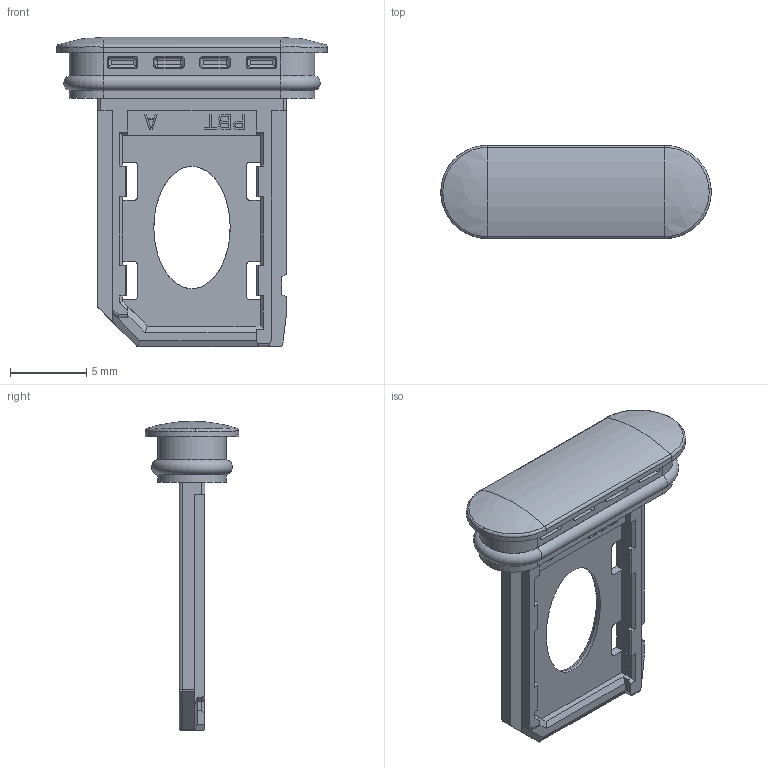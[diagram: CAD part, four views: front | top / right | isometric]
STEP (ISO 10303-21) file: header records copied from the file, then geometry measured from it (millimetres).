
FILE_DESCRIPTION((''),'2;1');
FILE_NAME('115U-T017_C2_ORING','2026-06-11T',('fros.liao'),(''),'CREO PARAMETRIC BY PTC INC, 2018360','CREO PARAMETRIC BY PTC INC, 2018360','');
FILE_SCHEMA(('CONFIG_CONTROL_DESIGN'));
Length unit declared in the file: millimetre
Products named in the file (1): 115U-T017_C2_ORING
Bounding box: 17.7 x 6.1 x 20.25 mm (x, y, z)
Volume: 427.5 mm3; surface area: 840 mm2
Topology: 1 solids, 1 shells, 387 faces, 1048 edges, 654 vertices
Faces by surface type: plane 242, cylinder 72, bspline 48, cone 12, torus 7, sphere 4, extrusion 2
Entity records: 15402 total; most frequent: CARTESIAN_POINT 6151, ORIENTED_EDGE 2044, DIRECTION 1654, EDGE_CURVE 1022, VECTOR 768, LINE 766, VERTEX_POINT 654, AXIS2_PLACEMENT_3D 443
